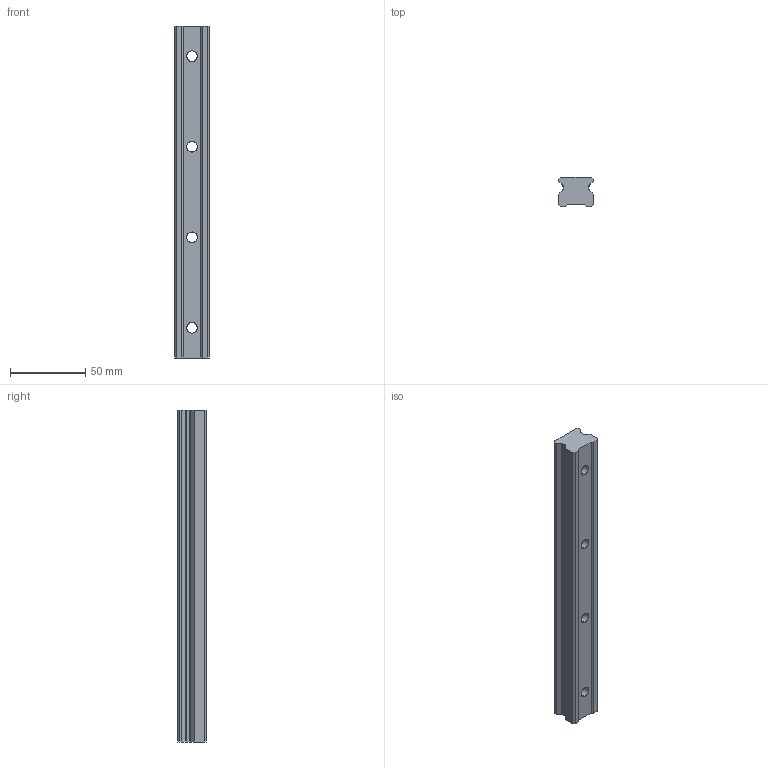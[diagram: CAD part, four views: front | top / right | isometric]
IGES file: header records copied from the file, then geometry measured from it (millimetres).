
Start section: SolidWorks IGES file using analytic representation for surfaces
Global section: file name: C:\Users\IanO\Desktop\L1016_v2\L1016.BL25_v2\L1016.BL25_v2_20160611_IGES\L1016.BL25-0220.igs; native system: SolidWorks 2017; preprocessor: SolidWorks 2017; author: IanO; date: 190612.130414; units: millimetre
Bounding box: 23 x 19.2 x 220 mm (x, y, z)
Surface area: 21668 mm2 (no closed solid volume)
Topology: 0 solids, 0 shells, 46 faces, 744 edges, 744 vertices
Faces by surface type: bspline 26, revolution 20
